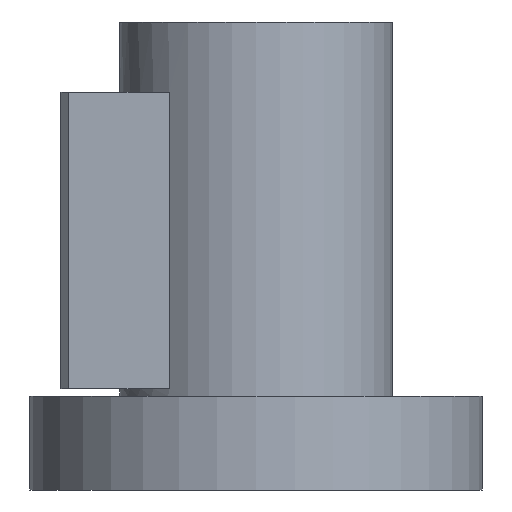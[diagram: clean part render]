
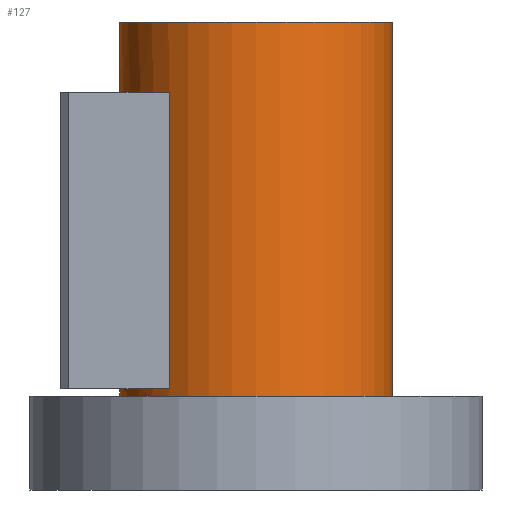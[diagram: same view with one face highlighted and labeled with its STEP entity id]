
A CAD part, front view. The second image highlights one B-rep face of the part: STEP entity #127.
In plain terms, the highlighted cylindrical face has radius 17.5 mm (diameter 35 mm), a full revolution.
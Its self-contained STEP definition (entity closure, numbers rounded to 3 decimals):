
#127=ADVANCED_FACE('',(#200,#201,#202),#155,.T.);
#155=CYLINDRICAL_SURFACE('',#508,17.5);
#168=LINE('',#698,#184);
#169=LINE('',#702,#185);
#184=VECTOR('',#568,1.);
#185=VECTOR('',#571,1.);
#200=FACE_BOUND('',#245,.T.);
#201=FACE_BOUND('',#246,.T.);
#202=FACE_BOUND('',#247,.T.);
#245=EDGE_LOOP('',(#305));
#246=EDGE_LOOP('',(#306));
#247=EDGE_LOOP('',(#307,#308,#309,#310));
#305=ORIENTED_EDGE('',*,*,#431,.F.);
#306=ORIENTED_EDGE('',*,*,#432,.T.);
#307=ORIENTED_EDGE('',*,*,#433,.F.);
#308=ORIENTED_EDGE('',*,*,#434,.F.);
#309=ORIENTED_EDGE('',*,*,#435,.T.);
#310=ORIENTED_EDGE('',*,*,#436,.F.);
#393=VERTEX_POINT('',#692);
#394=VERTEX_POINT('',#694);
#395=VERTEX_POINT('',#696);
#396=VERTEX_POINT('',#697);
#397=VERTEX_POINT('',#699);
#398=VERTEX_POINT('',#701);
#431=EDGE_CURVE('',#393,#393,#475,.T.);
#432=EDGE_CURVE('',#394,#394,#476,.T.);
#433=EDGE_CURVE('',#395,#396,#477,.T.);
#434=EDGE_CURVE('',#397,#395,#168,.T.);
#435=EDGE_CURVE('',#397,#398,#478,.T.);
#436=EDGE_CURVE('',#396,#398,#169,.T.);
#475=CIRCLE('',#504,17.5);
#476=CIRCLE('',#505,17.5);
#477=CIRCLE('',#506,17.5);
#478=CIRCLE('',#507,17.5);
#504=AXIS2_PLACEMENT_3D('',#691,#562,#563);
#505=AXIS2_PLACEMENT_3D('',#693,#564,#565);
#506=AXIS2_PLACEMENT_3D('',#695,#566,#567);
#507=AXIS2_PLACEMENT_3D('',#700,#569,#570);
#508=AXIS2_PLACEMENT_3D('',#703,#572,#573);
#562=DIRECTION('',(0.,0.,1.));
#563=DIRECTION('',(1.,0.,0.));
#564=DIRECTION('',(0.,0.,1.));
#565=DIRECTION('',(1.,0.,0.));
#566=DIRECTION('',(0.,0.,-1.));
#567=DIRECTION('',(-1.,0.,0.));
#568=DIRECTION('',(0.,0.,1.));
#569=DIRECTION('',(0.,0.,-1.));
#570=DIRECTION('',(-1.,0.,0.));
#571=DIRECTION('',(0.,0.,-1.));
#572=DIRECTION('',(0.,0.,-1.));
#573=DIRECTION('',(-1.,0.,0.));
#691=CARTESIAN_POINT('',(0.,0.,60.));
#692=CARTESIAN_POINT('',(17.5,0.,60.));
#693=CARTESIAN_POINT('',(0.,0.,12.));
#694=CARTESIAN_POINT('',(17.5,0.,12.));
#695=CARTESIAN_POINT('',(0.,0.,51.));
#696=CARTESIAN_POINT('',(-11.136,-13.5,51.));
#697=CARTESIAN_POINT('',(-11.136,13.5,51.));
#698=CARTESIAN_POINT('',(-11.136,-13.5,60.));
#699=CARTESIAN_POINT('',(-11.136,-13.5,13.));
#700=CARTESIAN_POINT('',(0.,0.,13.));
#701=CARTESIAN_POINT('',(-11.136,13.5,13.));
#702=CARTESIAN_POINT('',(-11.136,13.5,60.));
#703=CARTESIAN_POINT('',(0.,0.,60.));
